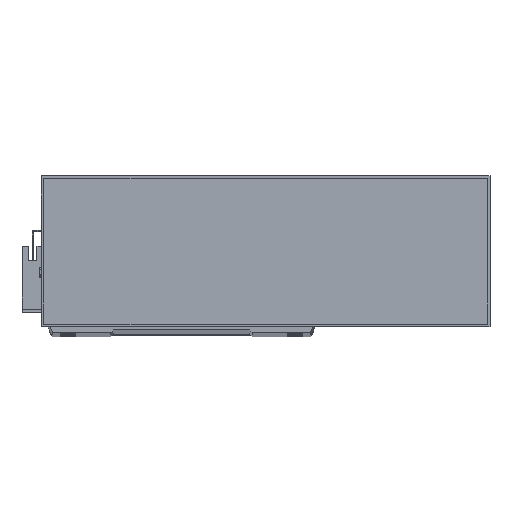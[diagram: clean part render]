
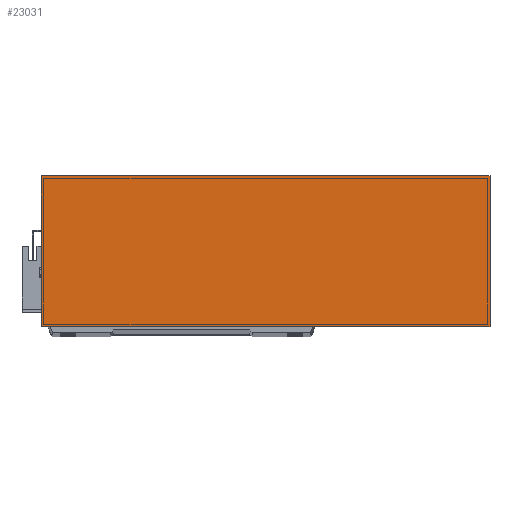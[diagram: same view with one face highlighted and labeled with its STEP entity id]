
A CAD part, top view. The second image highlights one B-rep face of the part: STEP entity #23031.
In plain terms, the highlighted planar face has unit normal (0, 0, 1).
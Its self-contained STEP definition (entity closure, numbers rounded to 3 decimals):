
#310 = CARTESIAN_POINT ( 'NONE',  ( 0., 0., 50. ) ) ;
#383 = LINE ( 'NONE', #12007, #25008 ) ;
#2676 = DIRECTION ( 'NONE',  ( 0., -1., 0. ) ) ;
#4323 = VECTOR ( 'NONE', #7471, 1000. ) ;
#4743 = VECTOR ( 'NONE', #2676, 1000. ) ;
#7151 = ORIENTED_EDGE ( 'NONE', *, *, #15747, .T. ) ;
#7471 = DIRECTION ( 'NONE',  ( 0., 1., 0. ) ) ;
#8441 = CARTESIAN_POINT ( 'NONE',  ( 0., 0., 50. ) ) ;
#9495 = DIRECTION ( 'NONE',  ( -1., 0., 0. ) ) ;
#9849 = EDGE_CURVE ( 'NONE', #22186, #17278, #24559, .T. ) ;
#10721 = CARTESIAN_POINT ( 'NONE',  ( 0., 0., 50. ) ) ;
#10892 = DIRECTION ( 'NONE',  ( -1., 0., 0. ) ) ;
#11022 = AXIS2_PLACEMENT_3D ( 'NONE', #8441, #25095, #10892 ) ;
#12007 = CARTESIAN_POINT ( 'NONE',  ( 0., 0., 50. ) ) ;
#12291 = CARTESIAN_POINT ( 'NONE',  ( 277., 0., 50. ) ) ;
#14551 = EDGE_CURVE ( 'NONE', #21781, #30641, #383, .T. ) ;
#15747 = EDGE_CURVE ( 'NONE', #17278, #21781, #23791, .T. ) ;
#16230 = ORIENTED_EDGE ( 'NONE', *, *, #17148, .T. ) ;
#17148 = EDGE_CURVE ( 'NONE', #30641, #22186, #23374, .T. ) ;
#17278 = VERTEX_POINT ( 'NONE', #22160 ) ;
#18233 = VECTOR ( 'NONE', #9495, 1000. ) ;
#18967 = CARTESIAN_POINT ( 'NONE',  ( 0., 93., 50. ) ) ;
#19690 = DIRECTION ( 'NONE',  ( 1., 0., 0. ) ) ;
#20955 = CARTESIAN_POINT ( 'NONE',  ( 277., 0., 50. ) ) ;
#21781 = VERTEX_POINT ( 'NONE', #10721 ) ;
#22160 = CARTESIAN_POINT ( 'NONE',  ( 0., 93., 50. ) ) ;
#22186 = VERTEX_POINT ( 'NONE', #24018 ) ;
#22710 = PLANE ( 'NONE',  #11022 ) ;
#23031 = ADVANCED_FACE ( 'NONE', ( #24071 ), #22710, .F. ) ;
#23374 = LINE ( 'NONE', #12291, #4323 ) ;
#23791 = LINE ( 'NONE', #310, #4743 ) ;
#24018 = CARTESIAN_POINT ( 'NONE',  ( 277., 93., 50. ) ) ;
#24071 = FACE_OUTER_BOUND ( 'NONE', #25797, .T. ) ;
#24559 = LINE ( 'NONE', #18967, #18233 ) ;
#25008 = VECTOR ( 'NONE', #19690, 1000. ) ;
#25095 = DIRECTION ( 'NONE',  ( 0., 0., -1. ) ) ;
#25149 = ORIENTED_EDGE ( 'NONE', *, *, #9849, .T. ) ;
#25797 = EDGE_LOOP ( 'NONE', ( #7151, #28879, #16230, #25149 ) ) ;
#28879 = ORIENTED_EDGE ( 'NONE', *, *, #14551, .T. ) ;
#30641 = VERTEX_POINT ( 'NONE', #20955 ) ;
